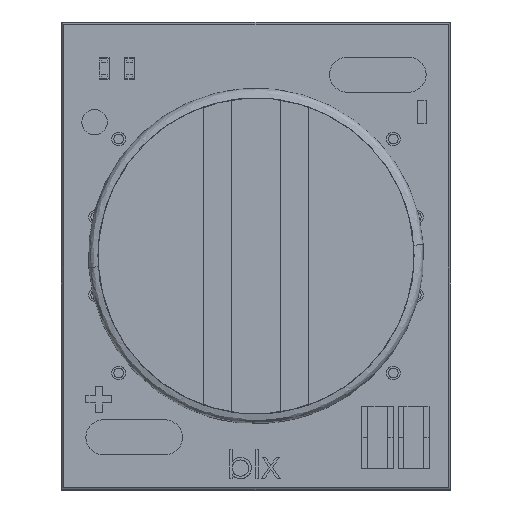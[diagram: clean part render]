
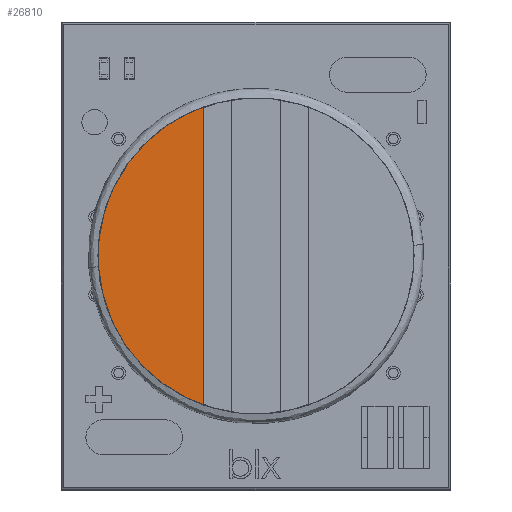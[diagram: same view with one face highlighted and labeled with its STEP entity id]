
A CAD part, top view. The second image highlights one B-rep face of the part: STEP entity #26810.
In plain terms, the highlighted planar face has unit normal (0, 0, 1).
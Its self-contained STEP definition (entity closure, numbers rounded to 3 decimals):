
#268 = VERTEX_POINT ( 'NONE', #17831 ) ;
#986 = DIRECTION ( 'NONE',  ( 0., 0., -1. ) ) ;
#1825 = AXIS2_PLACEMENT_3D ( 'NONE', #16825, #986, #19520 ) ;
#2323 = CARTESIAN_POINT ( 'NONE',  ( 8.109, 0., 1.56 ) ) ;
#2711 = FACE_OUTER_BOUND ( 'NONE', #5265, .T. ) ;
#4976 = DIRECTION ( 'NONE',  ( -1., 0., 0. ) ) ;
#5265 = EDGE_LOOP ( 'NONE', ( #12930, #32773, #18662 ) ) ;
#7753 = DIRECTION ( 'NONE',  ( 0., 0., -1. ) ) ;
#9337 = AXIS2_PLACEMENT_3D ( 'NONE', #2323, #20845, #4976 ) ;
#10527 = EDGE_CURVE ( 'NONE', #29696, #34154, #17569, .T. ) ;
#12429 = EDGE_CURVE ( 'NONE', #34154, #268, #28713, .T. ) ;
#12590 = DIRECTION ( 'NONE',  ( 0., -1., 0. ) ) ;
#12930 = ORIENTED_EDGE ( 'NONE', *, *, #12429, .F. ) ;
#14599 = VECTOR ( 'NONE', #12590, 1000. ) ;
#15677 = AXIS2_PLACEMENT_3D ( 'NONE', #23625, #7753, #26293 ) ;
#16825 = CARTESIAN_POINT ( 'NONE',  ( 0., 0., 1.56 ) ) ;
#17569 = CIRCLE ( 'NONE', #15677, 8.109 ) ;
#17831 = CARTESIAN_POINT ( 'NONE',  ( -2.688, -7.651, 1.56 ) ) ;
#18662 = ORIENTED_EDGE ( 'NONE', *, *, #27609, .F. ) ;
#18867 = CARTESIAN_POINT ( 'NONE',  ( -2.688, 7.651, 1.56 ) ) ;
#19520 = DIRECTION ( 'NONE',  ( 1., 0., 0. ) ) ;
#20845 = DIRECTION ( 'NONE',  ( 0., 0., 1. ) ) ;
#23391 = PLANE ( 'NONE',  #9337 ) ;
#23625 = CARTESIAN_POINT ( 'NONE',  ( 0., 0., 1.56 ) ) ;
#25827 = CARTESIAN_POINT ( 'NONE',  ( -8.109, 0., 1.56 ) ) ;
#26293 = DIRECTION ( 'NONE',  ( 1., 0., 0. ) ) ;
#26810 = ADVANCED_FACE ( 'NONE', ( #2711 ), #23391, .T. ) ;
#27068 = CIRCLE ( 'NONE', #1825, 8.109 ) ;
#27609 = EDGE_CURVE ( 'NONE', #268, #29696, #27068, .T. ) ;
#28504 = CARTESIAN_POINT ( 'NONE',  ( -2.688, -7.651, 1.56 ) ) ;
#28713 = LINE ( 'NONE', #28504, #14599 ) ;
#29696 = VERTEX_POINT ( 'NONE', #25827 ) ;
#32773 = ORIENTED_EDGE ( 'NONE', *, *, #10527, .F. ) ;
#34154 = VERTEX_POINT ( 'NONE', #18867 ) ;
